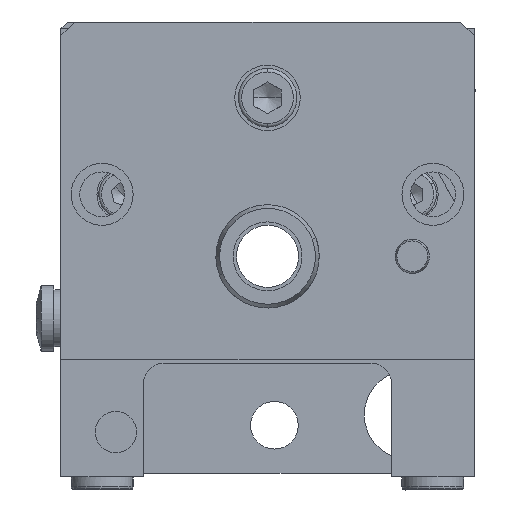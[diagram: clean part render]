
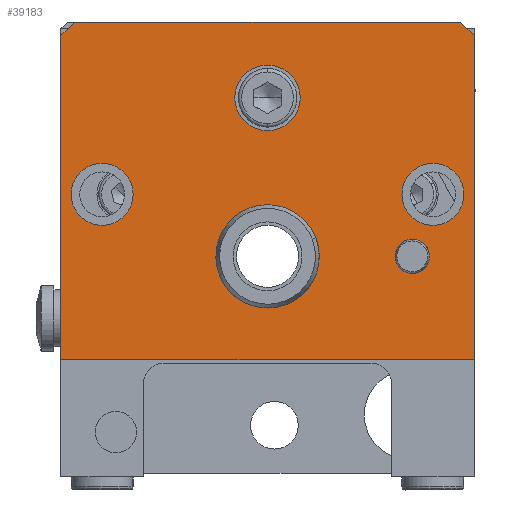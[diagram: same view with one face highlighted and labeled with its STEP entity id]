
A CAD part, front view. The second image highlights one B-rep face of the part: STEP entity #39183.
In plain terms, the highlighted planar face has unit normal (0, -1, 0).
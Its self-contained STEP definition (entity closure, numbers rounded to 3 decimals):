
#35386=CARTESIAN_POINT('',(-28.5,-39.,27.383));
#35387=VERTEX_POINT('',#35386);
#35403=CARTESIAN_POINT('',(-19.5,-39.,27.383));
#35404=VERTEX_POINT('',#35403);
#35411=CARTESIAN_POINT('',(-24.,-39.,27.383));
#35412=DIRECTION('',(0.0,1.0,0.0));
#35413=DIRECTION('',(-1.0,0.0,0.0));
#35414=AXIS2_PLACEMENT_3D('',#35411,#35412,#35413);
#35415=CIRCLE('',#35414,4.5);
#35416=EDGE_CURVE('',#35387,#35404,#35415,.T.);
#35449=CARTESIAN_POINT('',(19.5,-39.,27.383));
#35450=VERTEX_POINT('',#35449);
#35466=CARTESIAN_POINT('',(28.5,-39.0,27.383));
#35467=VERTEX_POINT('',#35466);
#35474=CARTESIAN_POINT('',(24.,-39.,27.383));
#35475=DIRECTION('',(0.0,1.0,0.0));
#35476=DIRECTION('',(-1.0,0.0,0.0));
#35477=AXIS2_PLACEMENT_3D('',#35474,#35475,#35476);
#35478=CIRCLE('',#35477,4.5);
#35479=EDGE_CURVE('',#35450,#35467,#35478,.T.);
#35512=CARTESIAN_POINT('',(-4.75,-39.,41.383));
#35513=VERTEX_POINT('',#35512);
#35529=CARTESIAN_POINT('',(4.75,-39.,41.383));
#35530=VERTEX_POINT('',#35529);
#35537=CARTESIAN_POINT('',(0.,-39.,41.383));
#35538=DIRECTION('',(0.0,1.0,0.0));
#35539=DIRECTION('',(-1.0,0.0,0.0));
#35540=AXIS2_PLACEMENT_3D('',#35537,#35538,#35539);
#35541=CIRCLE('',#35540,4.75);
#35542=EDGE_CURVE('',#35513,#35530,#35541,.T.);
#35861=CARTESIAN_POINT('',(18.5,-39.0,18.383));
#35862=VERTEX_POINT('',#35861);
#35871=CARTESIAN_POINT('',(23.5,-39.,18.383));
#35872=VERTEX_POINT('',#35871);
#35873=CARTESIAN_POINT('',(21.,-39.,18.383));
#35874=DIRECTION('',(0.0,1.0,0.0));
#35875=DIRECTION('',(-1.0,0.0,0.0));
#35876=AXIS2_PLACEMENT_3D('',#35873,#35874,#35875);
#35877=CIRCLE('',#35876,2.5);
#35878=EDGE_CURVE('',#35872,#35862,#35877,.T.);
#36467=CARTESIAN_POINT('',(-6.993,-39.,15.672));
#36468=VERTEX_POINT('',#36467);
#36482=CARTESIAN_POINT('',(6.993,-39.,21.094));
#36483=VERTEX_POINT('',#36482);
#36490=CARTESIAN_POINT('',(0.,-39.,18.383));
#36491=DIRECTION('',(0.0,1.0,0.0));
#36492=DIRECTION('',(-1.0,0.0,0.0));
#36493=AXIS2_PLACEMENT_3D('',#36490,#36491,#36492);
#36494=CIRCLE('',#36493,7.5);
#36495=EDGE_CURVE('',#36468,#36483,#36494,.T.);
#38430=CARTESIAN_POINT('',(7.5,-39.,18.383));
#38431=VERTEX_POINT('',#38430);
#38432=CARTESIAN_POINT('',(0.,-39.,18.383));
#38433=DIRECTION('',(0.0,1.0,0.0));
#38434=DIRECTION('',(-1.0,0.0,0.0));
#38435=AXIS2_PLACEMENT_3D('',#38432,#38433,#38434);
#38436=CIRCLE('',#38435,7.5);
#38437=EDGE_CURVE('',#38431,#36468,#38436,.T.);
#38439=CARTESIAN_POINT('',(0.,-39.,18.383));
#38440=DIRECTION('',(0.0,1.0,0.0));
#38441=DIRECTION('',(-1.0,0.0,0.0));
#38442=AXIS2_PLACEMENT_3D('',#38439,#38440,#38441);
#38443=CIRCLE('',#38442,7.5);
#38444=EDGE_CURVE('',#36483,#38431,#38443,.T.);
#39029=CARTESIAN_POINT('',(-30.,-39.,50.383));
#39030=VERTEX_POINT('',#39029);
#39031=CARTESIAN_POINT('',(-28.,-39.,52.383));
#39032=VERTEX_POINT('',#39031);
#39033=CARTESIAN_POINT('',(-30.,-39.,50.383));
#39034=DIRECTION('',(0.707,0.0,0.707));
#39035=VECTOR('',#39034,2.828);
#39036=LINE('',#39033,#39035);
#39037=EDGE_CURVE('',#39030,#39032,#39036,.T.);
#39061=CARTESIAN_POINT('',(28.,-39.,52.383));
#39062=VERTEX_POINT('',#39061);
#39063=CARTESIAN_POINT('',(-28.,-39.,52.383));
#39064=DIRECTION('',(1.0,0.0,0.0));
#39065=VECTOR('',#39064,56.);
#39066=LINE('',#39063,#39065);
#39067=EDGE_CURVE('',#39032,#39062,#39066,.T.);
#39099=CARTESIAN_POINT('',(0.,-39.,27.883));
#39100=DIRECTION('',(0.0,-1.0,0.0));
#39101=DIRECTION('',(0.0,0.0,1.0));
#39102=AXIS2_PLACEMENT_3D('',#39099,#39100,#39101);
#39103=PLANE('',#39102);
#39104=ORIENTED_EDGE('',*,*,#39037,.F.);
#39105=CARTESIAN_POINT('',(-30.,-39.,3.383));
#39106=VERTEX_POINT('',#39105);
#39107=CARTESIAN_POINT('',(-30.,-39.,3.383));
#39108=DIRECTION('',(0.0,0.0,1.0));
#39109=VECTOR('',#39108,47.);
#39110=LINE('',#39107,#39109);
#39111=EDGE_CURVE('',#39106,#39030,#39110,.T.);
#39112=ORIENTED_EDGE('',*,*,#39111,.F.);
#39113=CARTESIAN_POINT('',(30.,-39.,3.383));
#39114=VERTEX_POINT('',#39113);
#39115=CARTESIAN_POINT('',(30.,-39.,3.383));
#39116=DIRECTION('',(-1.0,0.0,0.0));
#39117=VECTOR('',#39116,60.0);
#39118=LINE('',#39115,#39117);
#39119=EDGE_CURVE('',#39114,#39106,#39118,.T.);
#39120=ORIENTED_EDGE('',*,*,#39119,.F.);
#39121=CARTESIAN_POINT('',(30.,-39.,50.383));
#39122=VERTEX_POINT('',#39121);
#39123=CARTESIAN_POINT('',(30.,-39.,50.383));
#39124=DIRECTION('',(0.0,0.0,-1.0));
#39125=VECTOR('',#39124,47.);
#39126=LINE('',#39123,#39125);
#39127=EDGE_CURVE('',#39122,#39114,#39126,.T.);
#39128=ORIENTED_EDGE('',*,*,#39127,.F.);
#39129=CARTESIAN_POINT('',(28.,-39.,52.383));
#39130=DIRECTION('',(0.707,0.0,-0.707));
#39131=VECTOR('',#39130,2.828);
#39132=LINE('',#39129,#39131);
#39133=EDGE_CURVE('',#39062,#39122,#39132,.T.);
#39134=ORIENTED_EDGE('',*,*,#39133,.F.);
#39135=ORIENTED_EDGE('',*,*,#39067,.F.);
#39136=EDGE_LOOP('',(#39104,#39112,#39120,#39128,#39134,#39135));
#39137=FACE_OUTER_BOUND('',#39136,.T.);
#39138=ORIENTED_EDGE('',*,*,#35878,.T.);
#39139=CARTESIAN_POINT('',(21.,-39.,18.383));
#39140=DIRECTION('',(0.0,1.0,0.0));
#39141=DIRECTION('',(-1.0,0.0,0.0));
#39142=AXIS2_PLACEMENT_3D('',#39139,#39140,#39141);
#39143=CIRCLE('',#39142,2.5);
#39144=EDGE_CURVE('',#35862,#35872,#39143,.T.);
#39145=ORIENTED_EDGE('',*,*,#39144,.T.);
#39146=EDGE_LOOP('',(#39138,#39145));
#39147=FACE_BOUND('',#39146,.T.);
#39148=ORIENTED_EDGE('',*,*,#35542,.T.);
#39149=CARTESIAN_POINT('',(0.,-39.,41.383));
#39150=DIRECTION('',(0.0,1.0,0.0));
#39151=DIRECTION('',(-1.0,0.0,0.0));
#39152=AXIS2_PLACEMENT_3D('',#39149,#39150,#39151);
#39153=CIRCLE('',#39152,4.75);
#39154=EDGE_CURVE('',#35530,#35513,#39153,.T.);
#39155=ORIENTED_EDGE('',*,*,#39154,.T.);
#39156=EDGE_LOOP('',(#39148,#39155));
#39157=FACE_BOUND('',#39156,.T.);
#39158=ORIENTED_EDGE('',*,*,#35479,.T.);
#39159=CARTESIAN_POINT('',(24.,-39.,27.383));
#39160=DIRECTION('',(0.0,1.0,0.0));
#39161=DIRECTION('',(-1.0,0.0,0.0));
#39162=AXIS2_PLACEMENT_3D('',#39159,#39160,#39161);
#39163=CIRCLE('',#39162,4.5);
#39164=EDGE_CURVE('',#35467,#35450,#39163,.T.);
#39165=ORIENTED_EDGE('',*,*,#39164,.T.);
#39166=EDGE_LOOP('',(#39158,#39165));
#39167=FACE_BOUND('',#39166,.T.);
#39168=ORIENTED_EDGE('',*,*,#35416,.T.);
#39169=CARTESIAN_POINT('',(-24.,-39.,27.383));
#39170=DIRECTION('',(0.0,1.0,0.0));
#39171=DIRECTION('',(-1.0,0.0,0.0));
#39172=AXIS2_PLACEMENT_3D('',#39169,#39170,#39171);
#39173=CIRCLE('',#39172,4.5);
#39174=EDGE_CURVE('',#35404,#35387,#39173,.T.);
#39175=ORIENTED_EDGE('',*,*,#39174,.T.);
#39176=EDGE_LOOP('',(#39168,#39175));
#39177=FACE_BOUND('',#39176,.T.);
#39178=ORIENTED_EDGE('',*,*,#38437,.T.);
#39179=ORIENTED_EDGE('',*,*,#36495,.T.);
#39180=ORIENTED_EDGE('',*,*,#38444,.T.);
#39181=EDGE_LOOP('',(#39178,#39179,#39180));
#39182=FACE_BOUND('',#39181,.T.);
#39183=ADVANCED_FACE('',(#39137,#39147,#39157,#39167,#39177,#39182),#39103,.T.);
